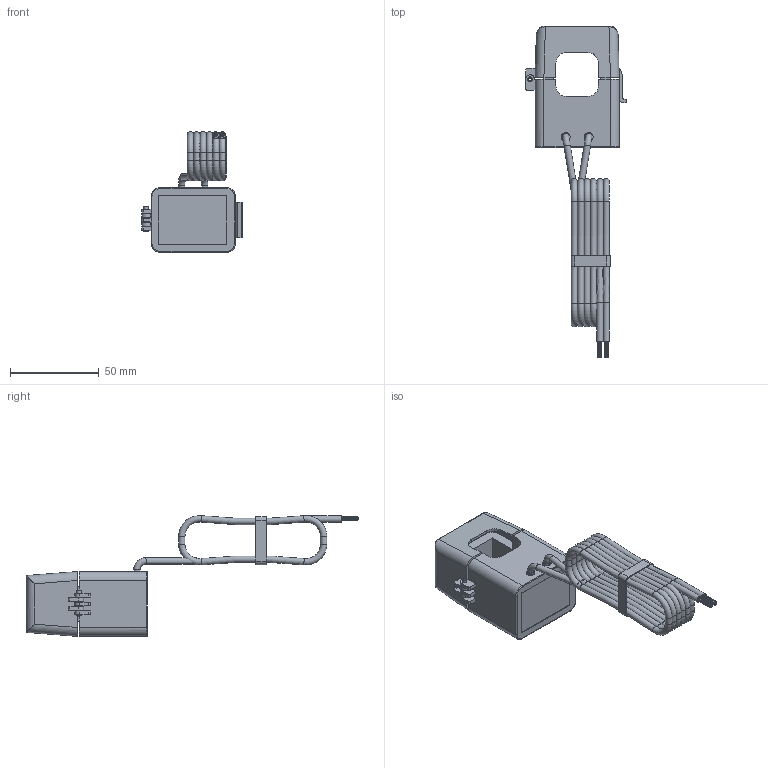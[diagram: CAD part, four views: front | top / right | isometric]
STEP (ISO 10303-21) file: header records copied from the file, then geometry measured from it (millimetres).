
FILE_DESCRIPTION(/* description */ (''),/* implementation_level */ '2;1');
FILE_NAME(/* name */ 'TA24P.step',/* time_stamp */ '2026-03-11T08:51:26+01:00',/* author */ (''),/* organization */ (''),/* preprocessor_version */ 'ST-DEVELOPER v20.1',/* originating_system */ 'Autodesk Translation Framework v14.24.0.0',/* authorisation */ '');
FILE_SCHEMA (('AUTOMOTIVE_DESIGN { 1 0 10303 214 3 1 1 }'));
Length unit declared in the file: millimetre
Products named in the file (2): 2026-03-11-08-50-03-809; 2026-03-11-08-50-04-864
Assembly tree (1 placements, depth 2):
  2026-03-11-08-50-03-809
    2026-03-11-08-50-04-864
Bounding box: 56.78 x 187.24 x 68.05 mm (x, y, z)
Volume: 45476.1 mm3; surface area: 51578.8 mm2
Topology: 42 solids, 42 shells, 484 faces, 1195 edges, 782 vertices
Faces by surface type: plane 274, cylinder 140, torus 38, bspline 32
Full cylindrical faces by diameter (mm): 0.4 x18, 1.6 x1, 2.4 x5, 2.6 x1, 3.6 x18, 5 x2
Entity records: 15421 total; most frequent: CARTESIAN_POINT 3663, DIRECTION 2453, ORIENTED_EDGE 2382, EDGE_CURVE 1191, AXIS2_PLACEMENT_3D 874, VERTEX_POINT 782, LINE 705, VECTOR 705
